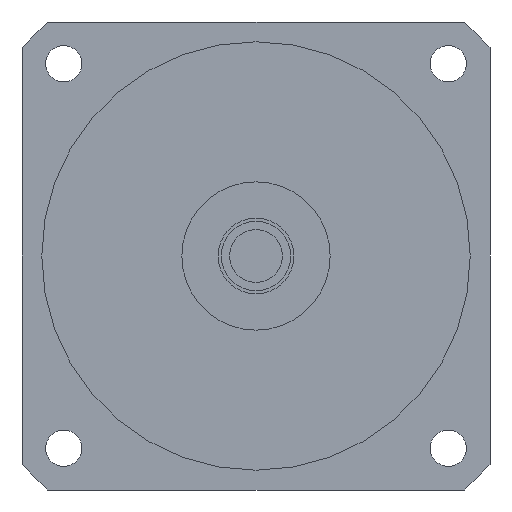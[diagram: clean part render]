
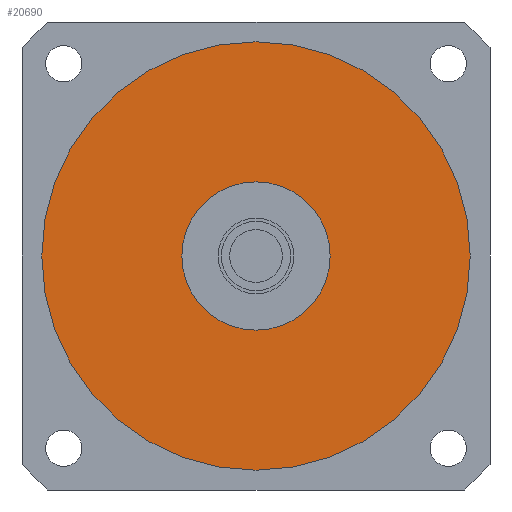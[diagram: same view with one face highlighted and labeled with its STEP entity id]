
A CAD part, left-side view. The second image highlights one B-rep face of the part: STEP entity #20690.
In plain terms, the highlighted planar face has unit normal (-1, 0, 0) as drawn and (0, 0, -1) by its records, which use the part's own axes.
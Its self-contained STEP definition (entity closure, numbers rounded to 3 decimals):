
#20170=CARTESIAN_POINT('',(-65.,0.,-38.5));
#20180=VERTEX_POINT('',#20170);
#20260=CARTESIAN_POINT('',(65.,0.,-38.5));
#20270=VERTEX_POINT('',#20260);
#20300=CARTESIAN_POINT('',(0.,0.,
-38.5));
#20310=DIRECTION('',(0.,0.,1.));
#20320=DIRECTION('',(1.,0.,0.));
#20330=AXIS2_PLACEMENT_3D('',#20300,#20310,#20320);
#20340=CIRCLE('',#20330,65.);
#20350=EDGE_CURVE('',#20180,#20270,#20340,.T.);
#20400=CARTESIAN_POINT('',(0.,0.,
-38.5));
#20410=DIRECTION('',(0.,0.,1.));
#20420=DIRECTION('',(-1.,0.,0.));
#20430=AXIS2_PLACEMENT_3D('',#20400,#20410,#20420);
#20440=PLANE('',#20430);
#20450=CARTESIAN_POINT('',(0.,0.,
-38.5));
#20460=DIRECTION('',(0.,0.,1.));
#20470=DIRECTION('',(0.,1.,0.));
#20480=AXIS2_PLACEMENT_3D('',#20450,#20460,#20470);
#20490=CIRCLE('',#20480,22.5);
#20500=CARTESIAN_POINT('',(-22.5,0.,-38.5));
#20510=VERTEX_POINT('',#20500);
#20520=CARTESIAN_POINT('',(22.5,0.,-38.5));
#20530=VERTEX_POINT('',#20520);
#20540=EDGE_CURVE('',#20510,#20530,#20490,.T.);
#20550=ORIENTED_EDGE('',*,*,#20540,.T.);
#20560=CARTESIAN_POINT('',(0.,22.5,-38.5));
#20570=VERTEX_POINT('',#20560);
#20580=EDGE_CURVE('',#20570,#20510,#20490,.T.);
#20590=ORIENTED_EDGE('',*,*,#20580,.T.);
#20600=EDGE_CURVE('',#20530,#20570,#20490,.T.);
#20610=ORIENTED_EDGE('',*,*,#20600,.T.);
#20620=EDGE_LOOP('',(#20610,#20590,#20550));
#20630=FACE_BOUND('',#20620,.T.);
#20640=EDGE_CURVE('',#20270,#20180,#20340,.T.);
#20650=ORIENTED_EDGE('',*,*,#20640,.F.);
#20660=ORIENTED_EDGE('',*,*,#20350,.F.);
#20670=EDGE_LOOP('',(#20660,#20650));
#20680=FACE_OUTER_BOUND('',#20670,.T.);
#20690=ADVANCED_FACE('',(#20630,#20680),#20440,.F.);
